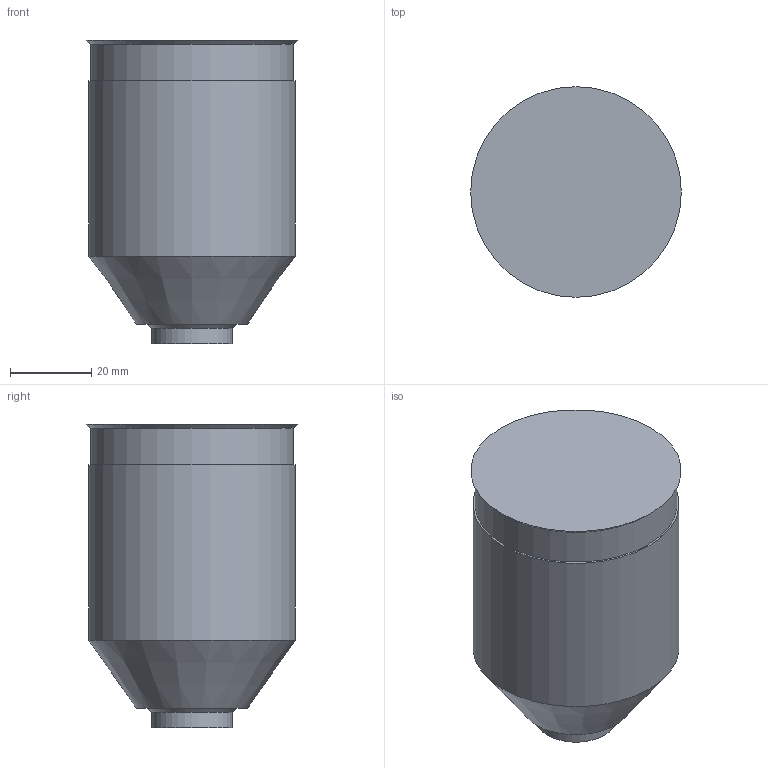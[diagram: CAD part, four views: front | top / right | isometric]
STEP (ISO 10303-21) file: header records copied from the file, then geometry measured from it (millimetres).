
FILE_DESCRIPTION(('STEP AP214'),'1');
FILE_NAME('SEDE IPM3000-C.stp','2018-06-13T07:21:18',(' '),(' '),'Spatial InterOp 3D',' ',' ');
FILE_SCHEMA(('AUTOMOTIVE_DESIGN { 1 0 10303 214 1 1 1 1 }'));
Length unit declared in the file: millimetre
Products named in the file (1): 1
Bounding box: 52 x 52 x 75 mm (x, y, z)
Volume: 130690.9 mm3; surface area: 14176.4 mm2
Topology: 1 solids, 1 shells, 10 faces, 15 edges, 9 vertices
Faces by surface type: plane 4, cone 3, cylinder 3
Full cylindrical faces by diameter (mm): 20 x1, 50 x1, 51 x1
Entity records: 291 total; most frequent: DIRECTION 40, CARTESIAN_POINT 29, AXIS2_PLACEMENT_3D 20, EDGE_LOOP 18, ORIENTED_EDGE 18, FACE_OUTER_BOUND 13, STYLED_ITEM 10, PRESENTATION_STYLE_ASSIGNMENT 10
